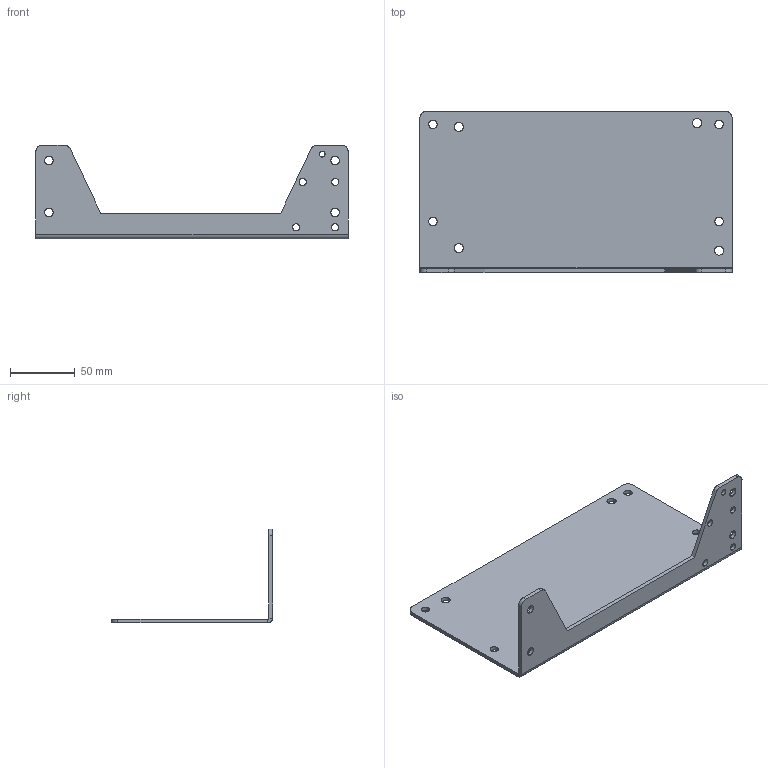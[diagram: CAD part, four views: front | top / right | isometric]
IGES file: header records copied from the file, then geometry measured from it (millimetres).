
Start section: SolidWorks IGES file using analytic representation for surfaces
Bounding box: 241 x 124.5 x 72.5 mm (x, y, z)
Surface area: 78492.8 mm2 (no closed solid volume)
Topology: 0 solids, 0 shells, 58 faces, 1444 edges, 1444 vertices
Faces by surface type: revolution 42, bspline 16
